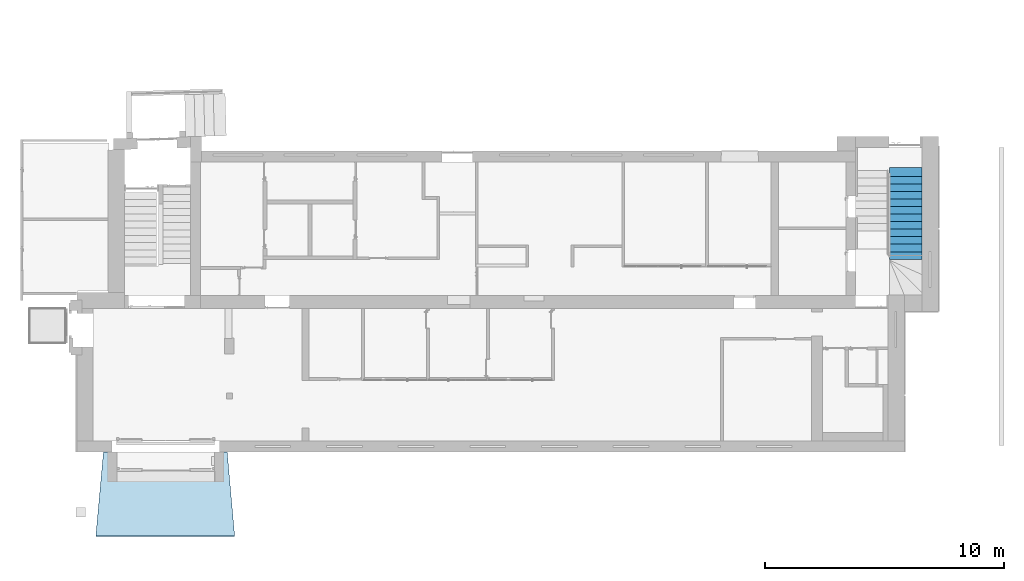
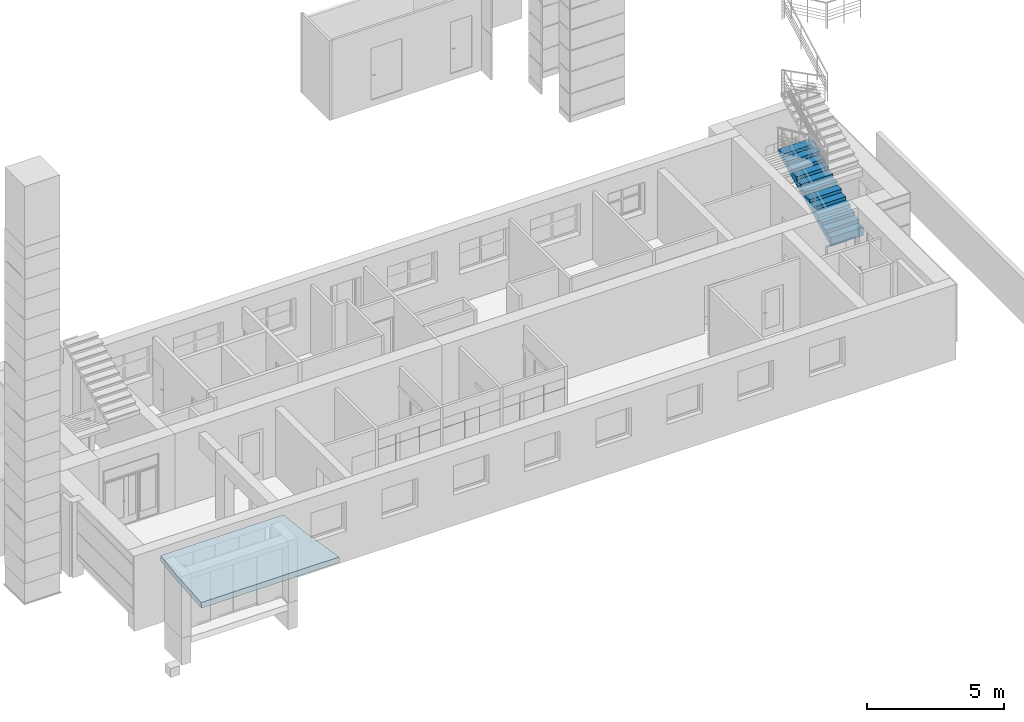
# One storey, part 32 of 49: 1 roof, 1 stair, 1 element without a shape of its own.
"""IFC2X3 building model written with IfcOpenShell, lengths in millimetres."""

from ifc_helpers import new_model, entity, si_unit, converted_unit, derived_unit, direction, frame, origin, place, context, subcontext, project, spatial, polyline, outline, extrude, face_set, surface_model, material, element, aggregate, save


model = new_model("IFC2X3")

# Units and contexts
model_context = context("Model", 3, precision=0.01, world=origin(), true_north=direction((6.12303176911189e-17, 1.0)))
body_context = subcontext(model_context, "Body", "Model", "MODEL_VIEW")
ifc_project = project(units=[si_unit("LENGTHUNIT", "METRE", prefix="MILLI"), si_unit("AREAUNIT", "SQUARE_METRE"), si_unit("VOLUMEUNIT", "CUBIC_METRE"), converted_unit("PLANEANGLEUNIT", "DEGREE", entity("IfcRatioMeasure", 0.0174532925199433), si_unit("PLANEANGLEUNIT", "RADIAN"), dimensions=[0, 0, 0, 0, 0, 0, 0]), si_unit("MASSUNIT", "GRAM", prefix="KILO"), derived_unit("MASSDENSITYUNIT", [(si_unit("MASSUNIT", "GRAM", prefix="KILO"), 1), (si_unit("LENGTHUNIT", "METRE"), -3)]), si_unit("TIMEUNIT", "SECOND"), si_unit("FREQUENCYUNIT", "HERTZ"), si_unit("THERMODYNAMICTEMPERATUREUNIT", "DEGREE_CELSIUS"), derived_unit("THERMALTRANSMITTANCEUNIT", [(si_unit("MASSUNIT", "GRAM", prefix="KILO"), 1), (si_unit("THERMODYNAMICTEMPERATUREUNIT", "KELVIN"), -1), (si_unit("TIMEUNIT", "SECOND"), -3)]), derived_unit("VOLUMETRICFLOWRATEUNIT", [(si_unit("LENGTHUNIT", "METRE"), 3), (si_unit("TIMEUNIT", "SECOND"), -1)]), si_unit("ELECTRICCURRENTUNIT", "AMPERE"), si_unit("ELECTRICVOLTAGEUNIT", "VOLT"), si_unit("POWERUNIT", "WATT"), si_unit("FORCEUNIT", "NEWTON", prefix="KILO"), si_unit("ILLUMINANCEUNIT", "LUX"), si_unit("LUMINOUSFLUXUNIT", "LUMEN"), si_unit("LUMINOUSINTENSITYUNIT", "CANDELA"), derived_unit("USERDEFINED", [(si_unit("MASSUNIT", "GRAM", prefix="KILO"), -1), (si_unit("LENGTHUNIT", "METRE"), -2), (si_unit("TIMEUNIT", "SECOND"), 3), (si_unit("LUMINOUSFLUXUNIT", "LUMEN"), 1)]), derived_unit("LINEARVELOCITYUNIT", [(si_unit("LENGTHUNIT", "METRE"), 1), (si_unit("TIMEUNIT", "SECOND"), -1)]), si_unit("PRESSUREUNIT", "PASCAL"), derived_unit("USERDEFINED", [(si_unit("LENGTHUNIT", "METRE"), -2), (si_unit("MASSUNIT", "GRAM", prefix="KILO"), 1), (si_unit("TIMEUNIT", "SECOND"), -2)])], contexts=[model_context])

# Site, building, storey
site_placement = place(None, frame((-151.875543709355, 2715.0, 0.0)))
site = spatial("IfcSite", under=ifc_project, at=site_placement, Name="Surface", CompositionType="ELEMENT")
building_placement = place(site_placement, origin())
building = spatial("IfcBuilding", under=site, at=building_placement, CompositionType="ELEMENT")
storey_placement = place(building_placement, origin())
storey = spatial("IfcBuildingStorey", under=building, at=storey_placement, Name="1 korrus", CompositionType="ELEMENT", Elevation=3.0969999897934e-10)

# Stairs
stair_1_placement = place(storey_placement, origin())
stair_1 = element("IfcStair", 1, at=stair_1_placement, inside=storey, Name="TR KONSTRUKTSIOON - 001 46686:TR KONSTRUKTSIOON - 001 46686", ObjectType="TR KONSTRUKTSIOON - 001 46686:TR KONSTRUKTSIOON - 001 46686", ShapeType="NOTDEFINED")
ifc_material_1 = material(Name="Paint - Sand Beige")
stair_2_placement = place(stair_1_placement, origin())
stair_2 = element("IfcStair", 2, at=stair_2_placement, material=ifc_material_1, Name="TR KONSTRUKTSIOON - 001 46686:TR KONSTRUKTSIOON - 001 46686", ObjectType="TR KONSTRUKTSIOON - 001 46686:TR KONSTRUKTSIOON - 001 46686", ShapeType="NOTDEFINED", context=body_context, shape_type="SweptSolid", body=[
    extrude(outline(polyline([(-683.046085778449, -1260.27738760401), (-683.048406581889, -1576.26745714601), (-830.048406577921, -1576.26637749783), (-830.051080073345, -1940.27738760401), (-644.858694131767, -1940.27874775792), (1161.74230723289, 1899.81293958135), (786.977123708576, 1899.81569206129), (786.974801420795, 1583.62352144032), (639.97480141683, 1583.62352144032), (639.97248062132, 1267.6345315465), (492.972480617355, 1267.6345315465), (492.970159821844, 951.64554165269), (345.97015981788, 951.645541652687), (345.967839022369, 635.656551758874), (198.967839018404, 635.656551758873), (198.965518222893, 319.667561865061), (51.9655182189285, 319.667561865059), (51.963197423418, 3.67857197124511), (-95.036802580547, 3.67857197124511), (-95.0391233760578, -312.310417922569), (-242.039123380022, -312.310417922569), (-242.041444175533, -628.299407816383), (-389.041444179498, -628.299407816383), (-389.043764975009, -944.288397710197), (-536.043764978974, -944.288397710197), (-536.046085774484, -1260.27738760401), (-683.046085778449, -1260.27738760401)])), frame((33802.30075757, 9973.72752625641, 1523.16457163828), z_axis=(-1.0, 0.0, 0.0), x_axis=(0.0, -7.34454549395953e-06, -1.0)), (0.0, 0.0, -1.0), 1369.31551062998),
])
aggregate(stair_1, [stair_2])

# Roof
ifc_material_2 = material(Name="Paint - Dark Gray")
roof_placement = place(storey_placement, frame((570.568514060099, -3535.22109985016, 2759.03310645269)))
element("IfcRoof", 3, at=roof_placement, inside=storey, material=ifc_material_2, Name="OBJEKT-001:OBJEKT-001", ObjectType="OBJEKT-001:OBJEKT-001", ShapeType="NOTDEFINED", context=body_context, shape_type="SurfaceModel", body=[
    surface_model("IfcFaceBasedSurfaceModel", [(0.0, 0.0, 146.737672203), (1.39905175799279, 15.3478065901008, 385.922525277), (208.456981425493, 2286.8041992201, 240.169677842), (322.258249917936, 3535.22109985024, 240.169677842), (322.258249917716, 3535.22109985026, 0.0), (208.456981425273, 2286.80419922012, 0.0), (1.39905175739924, 15.3478065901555, 385.922525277), (0.0, 0.0, 146.737672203), (5819.8172544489, 0.0, 146.737672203), (5818.4516855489, 15.3478065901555, 385.922525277), (208.456981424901, 2286.80419922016, 240.169677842), (1.39905175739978, 15.3478065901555, 385.922525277), (5818.4516855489, 15.3478065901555, 385.922525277), (5616.3491772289, 2286.80419922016, 240.169677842), (208.456981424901, 2286.80419922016, 240.169677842), (5616.3491772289, 2286.80419922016, 240.169677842), (5505.2714616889, 3535.22109985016, 240.169677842), (322.258249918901, 3535.22109985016, 240.169677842), (322.258249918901, 3535.22109985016, 0.0), (322.258249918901, 3535.22109985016, 240.169677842), (5505.2714616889, 3535.22109985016, 240.169677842), (5505.2714616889, 3535.22109985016, 0.0), (208.456981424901, 2286.80419922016, 0.0), (322.258249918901, 3535.22109985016, 0.0), (5505.2714616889, 3535.22109985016, 0.0), (5616.3491772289, 2286.80419922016, 0.0), (0.0, 0.0, 146.737672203), (208.456981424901, 2286.80419922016, 0.0), (5616.3491772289, 2286.80419922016, 0.0), (5819.8172544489, 0.0, 146.737672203), (5616.34917722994, 2286.80419922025, 0.0), (5505.27146168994, 3535.22109985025, 0.0), (5505.27146168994, 3535.22109985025, 240.169677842), (5616.34917722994, 2286.80419922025, 240.169677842), (5818.45168554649, 15.3478065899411, 385.922525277), (5819.81725444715, 0.0, 146.737672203)], [face_set([[[0, 1, 2, 3, 4, 5]]]), face_set([[[6, 7, 8, 9]]]), face_set([[[10, 11, 12, 13]]]), face_set([[[14, 15, 16, 17]]]), face_set([[[18, 19, 20, 21]]]), face_set([[[22, 23, 24, 25]]]), face_set([[[26, 27, 28, 29]]]), face_set([[[30, 31, 32, 33, 34, 35]]])]),
])

save(model, "model.ifc")
